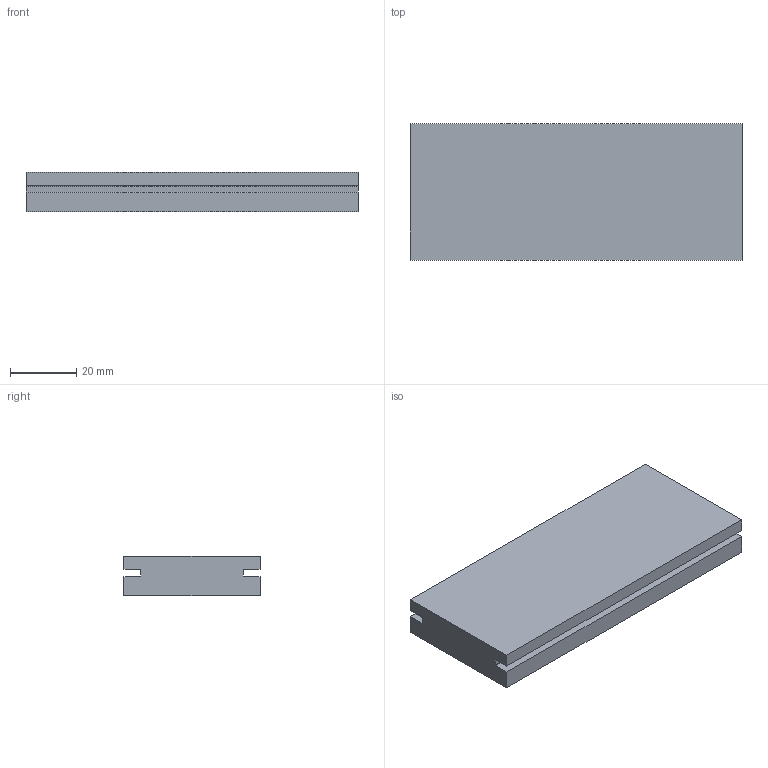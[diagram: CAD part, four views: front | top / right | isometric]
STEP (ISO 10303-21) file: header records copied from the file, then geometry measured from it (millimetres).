
FILE_DESCRIPTION (( 'STEP AP203' ), '1' );
FILE_NAME ('084.514.008.STEP', '2013-01-29T12:36:51', ( 'Alusic' ), ( 'Alusic' ), 'SwSTEP 2.0', 'SolidWorks 2011', '' );
FILE_SCHEMA (( 'CONFIG_CONTROL_DESIGN' ));
Length unit declared in the file: millimetre
Products named in the file (1): 084.514.008
Bounding box: 100 x 41 x 12 mm (x, y, z)
Volume: 47003.4 mm3; surface area: 13505.7 mm2
Topology: 1 solids, 1 shells, 18 faces, 48 edges, 32 vertices
Faces by surface type: plane 14, cylinder 4
Entity records: 637 total; most frequent: CARTESIAN_POINT 99, ORIENTED_EDGE 96, DIRECTION 94, EDGE_CURVE 48, LINE 40, VECTOR 40, VERTEX_POINT 32, AXIS2_PLACEMENT_3D 27
